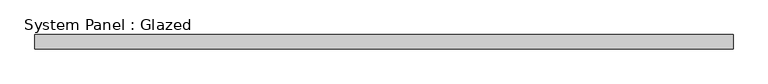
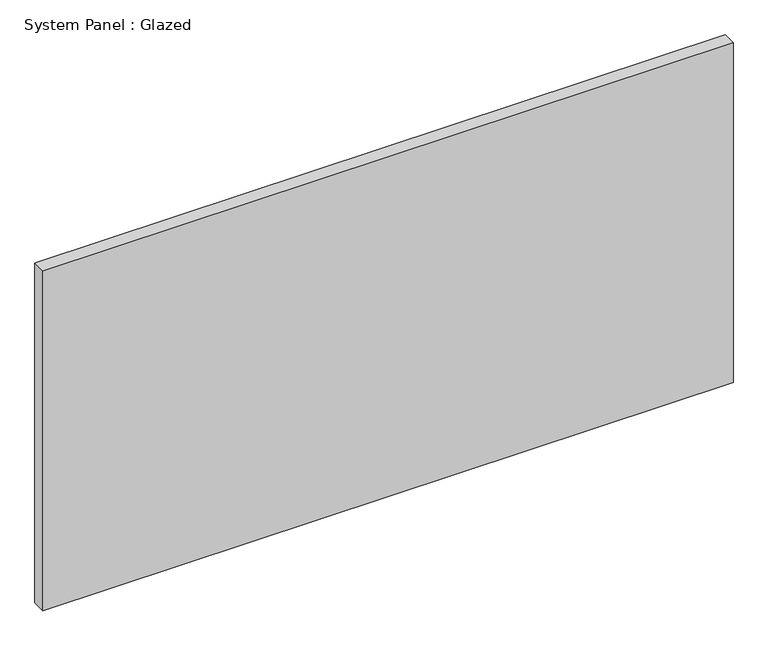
"""IFC4 building model written with IfcOpenShell, lengths in millimetres: plate geometry, System Panel : Glazed."""

from ifc_helpers import new_model, si_unit, origin, origin_with_axes, place, context, project, spatial, polyline, outline, extrude, source, transform, mapped, element, save


def system_panel_glazed_01c9ee5b(model_context):
    return source(origin(), model_context, "Body", "SweptSolid", [
        extrude(outline(polyline([(625.475, 19.05), (-625.475, 19.05), (-625.475, 44.45), (625.475, 44.45), (625.475, 19.05)])), origin_with_axes(), (0.0, 0.0, 1.0), 650.875),
    ])


if __name__ == "__main__":
    model = new_model("IFC4")
    model_context = context("Model", 3, world=origin())
    ifc_project = project(units=[si_unit("LENGTHUNIT", "METRE", prefix="MILLI")], contexts=[model_context])
    site = spatial("IfcSite", under=ifc_project)
    building = spatial("IfcBuilding", under=site)
    placement = place(None, origin())
    system_panel_glazed_shape = system_panel_glazed_01c9ee5b(model_context)
    element("IfcPlate", 1, ObjectType="System Panel : Glazed", at=placement, inside=building, context=model_context, shape_type="MappedRepresentation", body=[
        mapped(system_panel_glazed_shape, transform((0.0, 0.0, 0.0), x_axis=(1.0, 0.0, 0.0), y_axis=(0.0, 1.0, 0.0), z_axis=(0.0, 0.0, 1.0))),
    ])
    save(model, "model.ifc")
